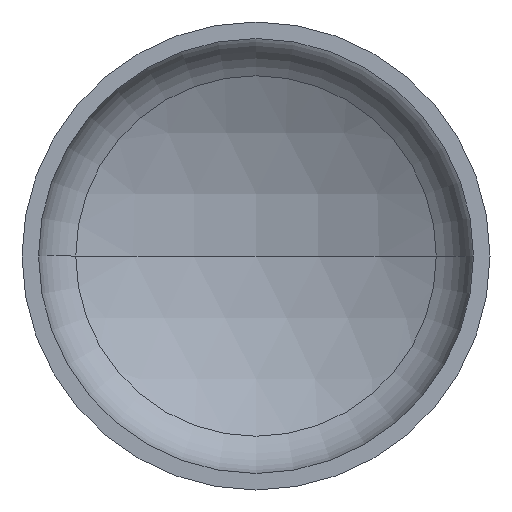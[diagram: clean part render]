
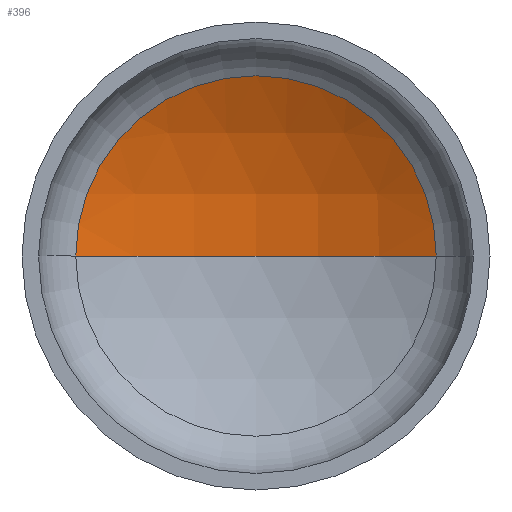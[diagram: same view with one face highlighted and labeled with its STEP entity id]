
A CAD part, front view. The second image highlights one B-rep face of the part: STEP entity #396.
In plain terms, the highlighted spherical face has radius 2400 mm.
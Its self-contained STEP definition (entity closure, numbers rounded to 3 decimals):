
#4 = VERTEX_POINT ( 'NONE', #285 ) ;
#5 = DIRECTION ( 'NONE',  ( 0., -1., 0. ) ) ;
#19 = EDGE_LOOP ( 'NONE', ( #58, #42, #158 ) ) ;
#36 = AXIS2_PLACEMENT_3D ( 'NONE', #279, #271, #270 ) ;
#42 = ORIENTED_EDGE ( 'NONE', *, *, #150, .T. ) ;
#43 = AXIS2_PLACEMENT_3D ( 'NONE', #218, #219, #231 ) ;
#44 = AXIS2_PLACEMENT_3D ( 'NONE', #317, #5, #249 ) ;
#54 = VERTEX_POINT ( 'NONE', #303 ) ;
#58 = ORIENTED_EDGE ( 'NONE', *, *, #161, .F. ) ;
#115 = EDGE_CURVE ( 'NONE', #4, #54, #290, .T. ) ;
#120 = VERTEX_POINT ( 'NONE', #313 ) ;
#144 = DIRECTION ( 'NONE',  ( -1., 0., 0. ) ) ;
#150 = EDGE_CURVE ( 'NONE', #120, #4, #286, .T. ) ;
#156 = DIRECTION ( 'NONE',  ( 0., 0., -1. ) ) ;
#158 = ORIENTED_EDGE ( 'NONE', *, *, #115, .T. ) ;
#161 = EDGE_CURVE ( 'NONE', #120, #54, #351, .T. ) ;
#182 = SPHERICAL_SURFACE ( 'NONE', #197, 2400. ) ;
#191 = FACE_OUTER_BOUND ( 'NONE', #19, .T. ) ;
#197 = AXIS2_PLACEMENT_3D ( 'NONE', #388, #156, #144 ) ;
#218 = CARTESIAN_POINT ( 'NONE',  ( 0., -1625.366, 0. ) ) ;
#219 = DIRECTION ( 'NONE',  ( 0., 0., -1. ) ) ;
#231 = DIRECTION ( 'NONE',  ( -1., 0., 0. ) ) ;
#249 = DIRECTION ( 'NONE',  ( 1., 0., 0. ) ) ;
#270 = DIRECTION ( 'NONE',  ( 1., 0., 0. ) ) ;
#271 = DIRECTION ( 'NONE',  ( 0., 0., 1. ) ) ;
#279 = CARTESIAN_POINT ( 'NONE',  ( 0., -1625.366, 0. ) ) ;
#285 = CARTESIAN_POINT ( 'NONE',  ( 1155.464, 478.18, 0. ) ) ;
#286 = CIRCLE ( 'NONE', #43, 2400. ) ;
#290 = CIRCLE ( 'NONE', #44, 1155.464 ) ;
#303 = CARTESIAN_POINT ( 'NONE',  ( -1155.464, 478.18, 0. ) ) ;
#313 = CARTESIAN_POINT ( 'NONE',  ( 0., 774.634, 0. ) ) ;
#317 = CARTESIAN_POINT ( 'NONE',  ( 0., 478.18, 0. ) ) ;
#351 = CIRCLE ( 'NONE', #36, 2400. ) ;
#388 = CARTESIAN_POINT ( 'NONE',  ( 0., -1625.366, 0. ) ) ;
#396 = ADVANCED_FACE ( 'NONE', ( #191 ), #182, .F. ) ;
